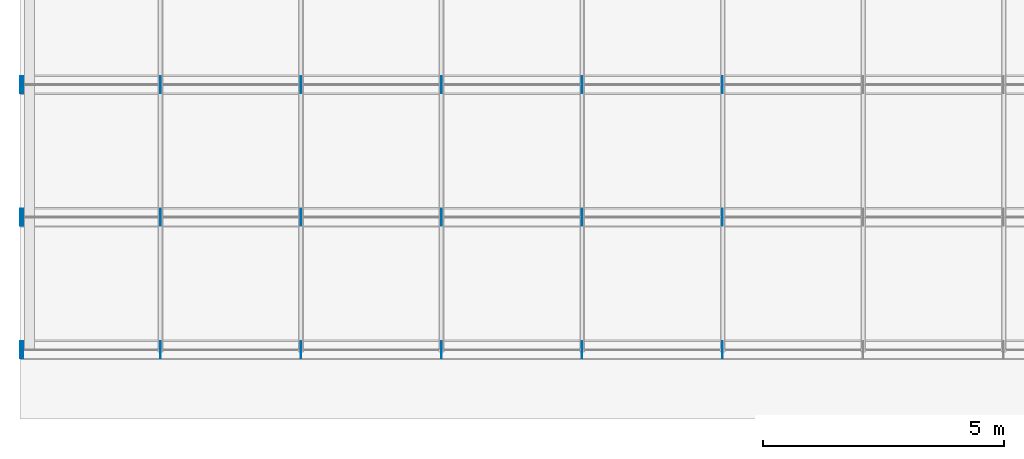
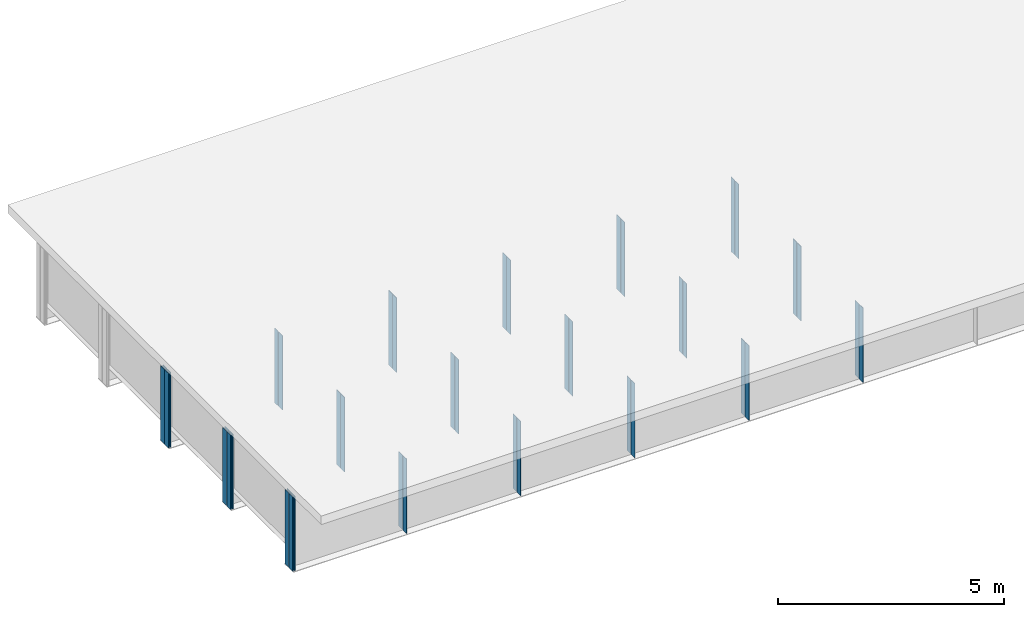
# One storey, part 3 of 17: 42 plates.
"""IFC4 building model written with IfcOpenShell, lengths in metres."""

from ifc_helpers import new_model, si_unit, frame, origin, origin_with_axes, origin_2d_with_axis, place, context, subcontext, project, spatial, rectangle, extrude, element, save


model = new_model("IFC4")

# Units and contexts
model_context = context("Model", 3, precision=1e-05, world=origin())
body_context = subcontext(model_context, "Body", "Model", "MODEL_VIEW")
ifc_project = project(units=[si_unit("LENGTHUNIT", "METRE"), si_unit("AREAUNIT", "SQUARE_METRE"), si_unit("VOLUMEUNIT", "CUBIC_METRE"), si_unit("PLANEANGLEUNIT", "RADIAN")], contexts=[model_context])

# Site, building, storey
site_placement = place(None, origin_with_axes())
site = spatial("IfcSite", under=ifc_project, at=site_placement, Name="Default Site")
building_placement = place(site_placement, origin_with_axes())
building = spatial("IfcBuilding", under=site, at=building_placement, Name="Bridge Structure")
storey_placement = place(building_placement, origin_with_axes())
storey = spatial("IfcBuildingStorey", under=building, at=storey_placement, Name="Superstructure")

# Plates
for number, where, z_axis, x_axis, name in (
    (1, (2.916, -5.409, -1.007), (0.0, 0.0, 1.0), (1.0, 0.0, 0.0), "Intermediate Stiffener 1"),
    (2, (2.916, -5.591, -1.007), (0.0, 0.0, 1.0), (1.0, 0.0, 0.0), "Intermediate Stiffener 1"),
    (3, (5.832, -5.409, -1.007), (0.0, 0.0, 1.0), (1.0, 0.0, 0.0), "Intermediate Stiffener 1"),
    (4, (5.832, -5.591, -1.007), (0.0, 0.0, 1.0), (1.0, 0.0, 0.0), "Intermediate Stiffener 1"),
    (5, (8.748, -5.409, -1.007), (0.0, 0.0, 1.0), (1.0, 0.0, 0.0), "Intermediate Stiffener 1"),
    (6, (8.748, -5.591, -1.007), (0.0, 0.0, 1.0), (1.0, 0.0, 0.0), "Intermediate Stiffener 1"),
    (7, (11.664, -5.409, -1.007), (0.0, 0.0, 1.0), (1.0, 0.0, 0.0), "Intermediate Stiffener 1"),
    (8, (11.664, -5.591, -1.007), (0.0, 0.0, 1.0), (1.0, 0.0, 0.0), "Intermediate Stiffener 1"),
    (9, (14.58, -5.409, -1.007), (0.0, 0.0, 1.0), (1.0, 0.0, 0.0), "Intermediate Stiffener 1"),
    (10, (14.58, -5.591, -1.007), (0.0, 0.0, 1.0), (1.0, 0.0, 0.0), "Intermediate Stiffener 1"),
):
    element("IfcPlate", number, at=place(storey_placement, frame(where, z_axis=z_axis, x_axis=x_axis)), inside=storey, Name=name, context=body_context, shape_type="SweptSolid", body=[
        extrude(rectangle(XDim=0.012, YDim=0.168, at=origin_2d_with_axis()), origin_with_axes(), (0.0, 0.0, 1.0), 2.014),
    ])
for number, where, z_axis, x_axis, name in (
    (11, (0.01, -5.409, -1.007), (0.0, 0.0, 1.0), (1.0, 0.0, 0.0), "End Stiffener 1"),
    (12, (0.01, -5.591, -1.007), (0.0, 0.0, 1.0), (1.0, 0.0, 0.0), "End Stiffener 1"),
    (13, (0.06, -5.409, -1.007), (0.0, 0.0, 1.0), (1.0, 0.0, 0.0), "End Stiffener 1"),
    (14, (0.06, -5.591, -1.007), (0.0, 0.0, 1.0), (1.0, 0.0, 0.0), "End Stiffener 1"),
):
    element("IfcPlate", number, at=place(storey_placement, frame(where, z_axis=z_axis, x_axis=x_axis)), inside=storey, Name=name, context=body_context, shape_type="SweptSolid", body=[
        extrude(rectangle(XDim=0.02, YDim=0.168, at=origin_2d_with_axis()), origin_with_axes(), (0.0, 0.0, 1.0), 2.014),
    ])
for number, where, z_axis, x_axis, name in (
    (15, (2.916, -2.6590000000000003, -1.007), (0.0, 0.0, 1.0), (1.0, 0.0, 0.0), "Intermediate Stiffener 2"),
    (16, (2.916, -2.841, -1.007), (0.0, 0.0, 1.0), (1.0, 0.0, 0.0), "Intermediate Stiffener 2"),
    (17, (5.832, -2.6590000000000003, -1.007), (0.0, 0.0, 1.0), (1.0, 0.0, 0.0), "Intermediate Stiffener 2"),
    (18, (5.832, -2.841, -1.007), (0.0, 0.0, 1.0), (1.0, 0.0, 0.0), "Intermediate Stiffener 2"),
    (19, (8.748, -2.6590000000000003, -1.007), (0.0, 0.0, 1.0), (1.0, 0.0, 0.0), "Intermediate Stiffener 2"),
    (20, (8.748, -2.841, -1.007), (0.0, 0.0, 1.0), (1.0, 0.0, 0.0), "Intermediate Stiffener 2"),
    (21, (11.664, -2.6590000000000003, -1.007), (0.0, 0.0, 1.0), (1.0, 0.0, 0.0), "Intermediate Stiffener 2"),
    (22, (11.664, -2.841, -1.007), (0.0, 0.0, 1.0), (1.0, 0.0, 0.0), "Intermediate Stiffener 2"),
    (23, (14.58, -2.6590000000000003, -1.007), (0.0, 0.0, 1.0), (1.0, 0.0, 0.0), "Intermediate Stiffener 2"),
    (24, (14.58, -2.841, -1.007), (0.0, 0.0, 1.0), (1.0, 0.0, 0.0), "Intermediate Stiffener 2"),
):
    element("IfcPlate", number, at=place(storey_placement, frame(where, z_axis=z_axis, x_axis=x_axis)), inside=storey, Name=name, context=body_context, shape_type="SweptSolid", body=[
        extrude(rectangle(XDim=0.012, YDim=0.168, at=origin_2d_with_axis()), origin_with_axes(), (0.0, 0.0, 1.0), 2.014),
    ])
for number, where, z_axis, x_axis, name in (
    (25, (0.01, -2.6590000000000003, -1.007), (0.0, 0.0, 1.0), (1.0, 0.0, 0.0), "End Stiffener 2"),
    (26, (0.01, -2.841, -1.007), (0.0, 0.0, 1.0), (1.0, 0.0, 0.0), "End Stiffener 2"),
    (27, (0.06, -2.6590000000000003, -1.007), (0.0, 0.0, 1.0), (1.0, 0.0, 0.0), "End Stiffener 2"),
    (28, (0.06, -2.841, -1.007), (0.0, 0.0, 1.0), (1.0, 0.0, 0.0), "End Stiffener 2"),
):
    element("IfcPlate", number, at=place(storey_placement, frame(where, z_axis=z_axis, x_axis=x_axis)), inside=storey, Name=name, context=body_context, shape_type="SweptSolid", body=[
        extrude(rectangle(XDim=0.02, YDim=0.168, at=origin_2d_with_axis()), origin_with_axes(), (0.0, 0.0, 1.0), 2.014),
    ])
for number, where, z_axis, x_axis, name in (
    (29, (2.916, 0.091, -1.007), (0.0, 0.0, 1.0), (1.0, 0.0, 0.0), "Intermediate Stiffener 3"),
    (30, (2.916, -0.091, -1.007), (0.0, 0.0, 1.0), (1.0, 0.0, 0.0), "Intermediate Stiffener 3"),
    (31, (5.832, 0.091, -1.007), (0.0, 0.0, 1.0), (1.0, 0.0, 0.0), "Intermediate Stiffener 3"),
    (32, (5.832, -0.091, -1.007), (0.0, 0.0, 1.0), (1.0, 0.0, 0.0), "Intermediate Stiffener 3"),
    (33, (8.748, 0.091, -1.007), (0.0, 0.0, 1.0), (1.0, 0.0, 0.0), "Intermediate Stiffener 3"),
    (34, (8.748, -0.091, -1.007), (0.0, 0.0, 1.0), (1.0, 0.0, 0.0), "Intermediate Stiffener 3"),
    (35, (11.664, 0.091, -1.007), (0.0, 0.0, 1.0), (1.0, 0.0, 0.0), "Intermediate Stiffener 3"),
    (36, (11.664, -0.091, -1.007), (0.0, 0.0, 1.0), (1.0, 0.0, 0.0), "Intermediate Stiffener 3"),
    (37, (14.58, 0.091, -1.007), (0.0, 0.0, 1.0), (1.0, 0.0, 0.0), "Intermediate Stiffener 3"),
    (38, (14.58, -0.091, -1.007), (0.0, 0.0, 1.0), (1.0, 0.0, 0.0), "Intermediate Stiffener 3"),
):
    element("IfcPlate", number, at=place(storey_placement, frame(where, z_axis=z_axis, x_axis=x_axis)), inside=storey, Name=name, context=body_context, shape_type="SweptSolid", body=[
        extrude(rectangle(XDim=0.012, YDim=0.168, at=origin_2d_with_axis()), origin_with_axes(), (0.0, 0.0, 1.0), 2.014),
    ])
for number, where, z_axis, x_axis, name in (
    (39, (0.01, 0.091, -1.007), (0.0, 0.0, 1.0), (1.0, 0.0, 0.0), "End Stiffener 3"),
    (40, (0.01, -0.091, -1.007), (0.0, 0.0, 1.0), (1.0, 0.0, 0.0), "End Stiffener 3"),
    (41, (0.06, 0.091, -1.007), (0.0, 0.0, 1.0), (1.0, 0.0, 0.0), "End Stiffener 3"),
    (42, (0.06, -0.091, -1.007), (0.0, 0.0, 1.0), (1.0, 0.0, 0.0), "End Stiffener 3"),
):
    element("IfcPlate", number, at=place(storey_placement, frame(where, z_axis=z_axis, x_axis=x_axis)), inside=storey, Name=name, context=body_context, shape_type="SweptSolid", body=[
        extrude(rectangle(XDim=0.02, YDim=0.168, at=origin_2d_with_axis()), origin_with_axes(), (0.0, 0.0, 1.0), 2.014),
    ])

save(model, "model.ifc")
